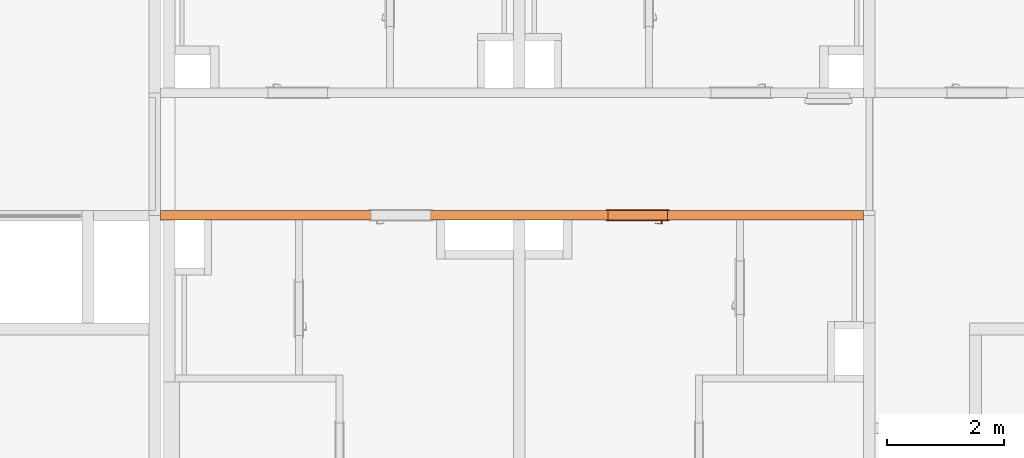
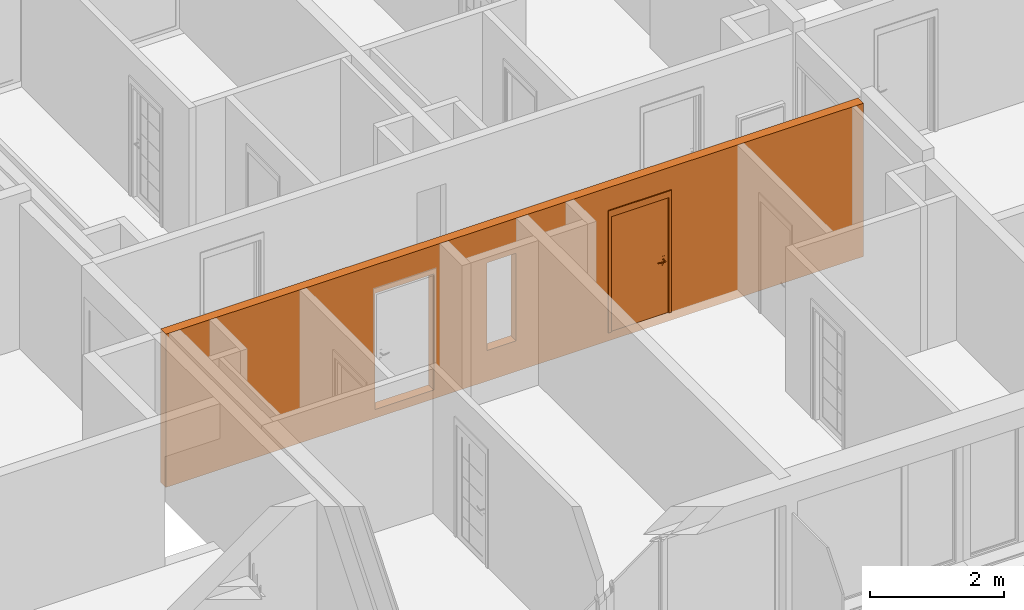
# One storey, part 17 of 61: 2 proxies, 3 openings.
"""IFC2X3 building model written with IfcOpenShell, lengths in millimetres."""

import ifcopenshell
import ifcopenshell.guid

model = None  # the IFC model being written
_history = None  # IfcOwnerHistory: only IFC2X3 demands one
_inside = {}  # id of a spatial element -> (the spatial element, [elements in it])
_under = {}  # id of a project, library or spatial element -> (it, [spatial elements below it])
_declared = {}  # id of a project -> (the project, [libraries it declares])
_typed = {}  # id of a type object -> (the type object, [elements of that type])
_made_of = {}  # id of a material, layer set ... -> (it, [elements and type objects made of it])


def new_model(schema):
    """Start an empty IFC model of exactly this schema.

    Asked for "IFC4X3", IfcOpenShell would pick the latest addendum, in which some entities
    have other attributes; the version numbers below select the first issue.
    IFC2X3 requires an IfcOwnerHistory on every rooted entity: one is made here for all.
    """
    global model, _history
    if schema == "IFC4X3":
        model = ifcopenshell.file(schema_version=(4, 3, 0, 0))
    else:
        model = ifcopenshell.file(schema=schema)
    _inside.clear()
    _under.clear()
    _declared.clear()
    _typed.clear()
    _made_of.clear()
    _history = None
    if model.schema == "IFC2X3":
        org = make("IfcOrganization", Name="unknown")
        user = make(
            "IfcPersonAndOrganization",
            ThePerson=make("IfcPerson", FamilyName="unknown"),
            TheOrganization=org,
        )
        app = make(
            "IfcApplication",
            ApplicationDeveloper=org,
            Version="unknown",
            ApplicationFullName="unknown",
            ApplicationIdentifier="unknown",
        )
        _history = make(
            "IfcOwnerHistory",
            OwningUser=user,
            OwningApplication=app,
            ChangeAction="ADDED",
            CreationDate=0,
        )
    return model


def make(cls, **values):
    """One entity of the class cls with the attributes given. An attribute that is None is left unset."""
    return model.create_entity(
        cls, **{name: value for name, value in values.items() if value is not None}
    )


def entity(cls, *values):
    """Any entity or typed value of the class cls, its attributes in the order of the schema. None: left unset."""
    e = model.create_entity(cls)
    for i, value in enumerate(values):
        if value is not None:
            e[i] = value
    return e


def rooted(cls, **values):
    """An entity with a GlobalId (a new one), such as an element, a storey or a relation."""
    return make(cls, GlobalId=ifcopenshell.guid.new(), OwnerHistory=_history, **values)


def si_unit(unit_type, name, prefix=None):
    """IfcSIUnit, for example si_unit("LENGTHUNIT", "METRE", prefix="MILLI")."""
    return make("IfcSIUnit", UnitType=unit_type, Prefix=prefix, Name=name)


def converted_unit(unit_type, name, factor, base, dimensions=None, offset=None):
    """IfcConversionBasedUnit, such as the inch: factor (a typed value) times the base unit."""
    return make(
        "IfcConversionBasedUnit"
        if offset is None
        else "IfcConversionBasedUnitWithOffset",
        ConversionOffset=offset,
        Dimensions=None
        if dimensions is None
        else entity("IfcDimensionalExponents", *dimensions),
        UnitType=unit_type,
        Name=name,
        ConversionFactor=make(
            "IfcMeasureWithUnit", ValueComponent=factor, UnitComponent=base
        ),
    )


def derived_unit(unit_type, elements):
    """IfcDerivedUnit: a product of units, each with its exponent."""
    return make(
        "IfcDerivedUnit",
        Elements=[
            make("IfcDerivedUnitElement", Unit=unit, Exponent=power)
            for unit, power in elements
        ],
        UnitType=unit_type,
    )


def money_unit(currency):
    """IfcMonetaryUnit."""
    return make("IfcMonetaryUnit", Currency=currency)


def assignment(units):
    """IfcUnitAssignment: the units of a project."""
    return None if units is None else make("IfcUnitAssignment", Units=units)


def point(xyz):
    """IfcCartesianPoint."""
    return None if xyz is None else make("IfcCartesianPoint", Coordinates=xyz)


def direction(xyz):
    """IfcDirection."""
    return None if xyz is None else make("IfcDirection", DirectionRatios=xyz)


def frame(location, z_axis=None, x_axis=None):
    """IfcAxis2Placement3D, a coordinate frame: its origin and axes. An axis left out is left unset."""
    return make(
        "IfcAxis2Placement3D",
        Location=point(location),
        Axis=direction(z_axis),
        RefDirection=direction(x_axis),
    )


def frame_2d(location, x_axis=None):
    """IfcAxis2Placement2D, a coordinate frame in the plane: its origin and x axis."""
    return make(
        "IfcAxis2Placement2D", Location=point(location), RefDirection=direction(x_axis)
    )


def origin_with_axes():
    """The frame at (0, 0, 0) with the z axis (0, 0, 1) and the x axis (1, 0, 0) written out."""
    return frame((0.0, 0.0, 0.0), z_axis=(0.0, 0.0, 1.0), x_axis=(1.0, 0.0, 0.0))


def origin_2d_with_axis():
    """The frame at (0, 0) in the plane with the x axis (1, 0) written out."""
    return frame_2d((0.0, 0.0), x_axis=(1.0, 0.0))


def place(relative_to, where):
    """IfcLocalPlacement: puts the frame where relative to a parent placement (None: the world)."""
    return make(
        "IfcLocalPlacement", PlacementRelTo=relative_to, RelativePlacement=where
    )


def context(
    kind, dimensions, precision=None, world=None, true_north=None, identifier=None
):
    """IfcGeometricRepresentationContext, for example the 3D "Model" context."""
    return make(
        "IfcGeometricRepresentationContext",
        ContextIdentifier=identifier,
        ContextType=kind,
        CoordinateSpaceDimension=dimensions,
        Precision=precision,
        WorldCoordinateSystem=world,
        TrueNorth=true_north,
    )


def subcontext(parent, identifier, kind, view, scale=None):
    """IfcGeometricRepresentationSubContext, for example "Body" below "Model"."""
    return make(
        "IfcGeometricRepresentationSubContext",
        ContextIdentifier=identifier,
        ContextType=kind,
        ParentContext=parent,
        TargetScale=scale,
        TargetView=view,
    )


def project(units=None, contexts=None):
    """IfcProject with its units and contexts."""
    return rooted(
        "IfcProject",
        Name="project",
        RepresentationContexts=contexts,
        UnitsInContext=assignment(units),
    )


def spatial(cls, under=None, at=None, **own):
    """A site, building, storey or space (cls), placed at a placement, below another one or the project."""
    s = rooted(cls, ObjectPlacement=at, **own)
    if under is not None:
        _under.setdefault(under.id(), (under, []))[1].append(s)
    return s


def profile(cls, at=None, kind="AREA", **sizes):
    """A parametric profile (cls). Its sizes go by their IFC names, for example OverallWidth=200.0."""
    return make(cls, ProfileType=kind, Position=at, **sizes)


def rectangle(**sizes):
    """IfcRectangleProfileDef."""
    return profile("IfcRectangleProfileDef", **sizes)


def extrude(swept, where, along, depth):
    """IfcExtrudedAreaSolid: the profile swept, set in the frame where, extruded along a direction by depth."""
    return make(
        "IfcExtrudedAreaSolid",
        SweptArea=swept,
        Position=where,
        ExtrudedDirection=direction(along),
        Depth=depth,
    )


def faces_of(points, faces, orient=None, outer=None):
    """IfcFace entities. A face is a list of loops; a loop is a list of indices into points, from 0.

    orient and outer hold one flag for each loop. By default every Orientation is true, the
    first loop of a face is its IfcFaceOuterBound and the others are IfcFaceBound.
    """
    made = []
    for i, loops in enumerate(faces):
        bounds = []
        for j, loop in enumerate(loops):
            is_outer = j == 0 if outer is None else outer[i][j]
            bounds.append(
                make(
                    "IfcFaceOuterBound" if is_outer else "IfcFaceBound",
                    Bound=make("IfcPolyLoop", Polygon=[points[k] for k in loop]),
                    Orientation=True if orient is None else orient[i][j],
                )
            )
        made.append(make("IfcFace", Bounds=bounds))
    return made


def open_shell(faces, orient=None, outer=None):
    """The faces of one IfcOpenShell. surface_model builds it on its shared points."""
    return ("IfcOpenShell", faces, orient, outer)


def faceted_brep(points, faces, orient=None, outer=None, voids=None):
    """IfcFacetedBrep: a solid bounded by flat faces; with voids (closed shells), ...WithVoids."""
    shared = [point(p) for p in points]
    hull = make("IfcClosedShell", CfsFaces=faces_of(shared, faces, orient, outer))
    if voids is None:
        return make("IfcFacetedBrep", Outer=hull)
    return make(
        "IfcFacetedBrepWithVoids",
        Outer=hull,
        Voids=[
            make(cls, CfsFaces=faces_of(shared, fs, o, b)) for cls, fs, o, b in voids
        ],
    )


def surface_model(cls, points, shells):
    """IfcFaceBasedSurfaceModel or IfcShellBasedSurfaceModel (cls): surfaces that need not close."""
    shared = [point(p) for p in points]
    made = [make(c, CfsFaces=faces_of(shared, fs, o, b)) for c, fs, o, b in shells]
    if cls == "IfcFaceBasedSurfaceModel":
        return make(cls, FbsmFaces=made)
    return make(cls, SbsmBoundary=made)


def shape(context_of_items, identifier, shape_type, items):
    """IfcShapeRepresentation: the items that make up one representation, for example the "Body"."""
    return make(
        "IfcShapeRepresentation",
        ContextOfItems=context_of_items,
        RepresentationIdentifier=identifier,
        RepresentationType=shape_type,
        Items=items,
    )


def source(mapping_origin, context_of_items, identifier, shape_type, items):
    """IfcRepresentationMap: a shape defined once, which mapped items show again and again."""
    return make(
        "IfcRepresentationMap",
        MappingOrigin=mapping_origin,
        MappedRepresentation=shape(context_of_items, identifier, shape_type, items),
    )


def transform(
    local_origin,
    x_axis=None,
    y_axis=None,
    z_axis=None,
    scale=None,
    scale2=None,
    scale3=None,
    uniform=True,
):
    """IfcCartesianTransformationOperator3D, or its non-uniform kind. x_axis, y_axis, z_axis: its Axis1, 2, 3."""
    if uniform:
        return make(
            "IfcCartesianTransformationOperator3D",
            Axis1=direction(x_axis),
            Axis2=direction(y_axis),
            LocalOrigin=point(local_origin),
            Scale=scale,
            Axis3=direction(z_axis),
        )
    return make(
        "IfcCartesianTransformationOperator3DnonUniform",
        Axis1=direction(x_axis),
        Axis2=direction(y_axis),
        LocalOrigin=point(local_origin),
        Scale=scale,
        Axis3=direction(z_axis),
        Scale2=scale2,
        Scale3=scale3,
    )


def mapped(mapping_source, mapping_target):
    """IfcMappedItem: shows the shape of a source again, moved by a transform."""
    return make(
        "IfcMappedItem", MappingSource=mapping_source, MappingTarget=mapping_target
    )


def material(Name=None, Category=None):
    """IfcMaterial."""
    return make("IfcMaterial", Name=Name, Category=Category)


def made_of(thing, what):
    """Note that an element or type object is made of a material, layer set ...; save() writes the relation."""
    if what is not None:
        _made_of.setdefault(what.id(), (what, []))[1].append(thing)
    return thing


def type_object(cls, material=None, **own):
    """A type object (cls), such as IfcWallType, which elements share."""
    return made_of(rooted(cls, **own), material)


def element(
    cls,
    number,
    at=None,
    inside=None,
    cuts=None,
    type_object=None,
    material=None,
    context=None,
    identifier="Body",
    shape_type=None,
    held_by="IfcProductDefinitionShape",
    body=None,
    shapes=None,
    **own,
):
    """One element of the class cls, such as IfcWall. Its Tag is "e" and its number.

    at: its placement. inside: the storey or other place that contains it. cuts: it is an
    opening in that element (IfcRelVoidsElement). A single representation is given by context,
    identifier, shape_type and body (its items); several are given by shapes. held_by: the class
    of the entity that holds the representations. save() writes the other relations.
    """
    e = rooted(cls, Tag="e%d" % number, ObjectPlacement=at, **own)
    if body is not None:
        shapes = [shape(context, identifier, shape_type, body)]
    if shapes is not None:
        e.Representation = make(held_by, Representations=shapes)
    if inside is not None:
        _inside.setdefault(inside.id(), (inside, []))[1].append(e)
    if cuts is not None:
        rooted(
            "IfcRelVoidsElement", RelatingBuildingElement=cuts, RelatedOpeningElement=e
        )
    if type_object is not None:
        _typed.setdefault(type_object.id(), (type_object, []))[1].append(e)
    return made_of(e, material)


def fill(opening, filler):
    """IfcRelFillsElement: the door or window that sits in an opening."""
    return rooted(
        "IfcRelFillsElement",
        RelatingOpeningElement=opening,
        RelatedBuildingElement=filler,
    )


def aggregate(whole, parts):
    """IfcRelAggregates: a whole, such as a stair, and the parts it consists of."""
    return rooted("IfcRelAggregates", RelatingObject=whole, RelatedObjects=parts)


def save(model, path):
    """Write the relations noted so far, then the file.

    IfcRelAggregates (storeys below a building ...), IfcRelContainedInSpatialStructure (elements
    in a storey), IfcRelDefinesByType, IfcRelAssociatesMaterial and IfcRelDeclares: one each for
    every whole, place, type object, material and project.
    """
    for whole, parts in _under.values():
        aggregate(whole, parts)
    for where, things in _inside.values():
        rooted(
            "IfcRelContainedInSpatialStructure",
            RelatedElements=things,
            RelatingStructure=where,
        )
    for kind, things in _typed.values():
        rooted("IfcRelDefinesByType", RelatedObjects=things, RelatingType=kind)
    for what, things in _made_of.values():
        rooted("IfcRelAssociatesMaterial", RelatedObjects=things, RelatingMaterial=what)
    for by, libraries in _declared.values():
        rooted("IfcRelDeclares", RelatingContext=by, RelatedDefinitions=libraries)
    model.write(path)


model = new_model("IFC2X3")

# Units and contexts
model_context = context("Model", 3, precision=0.01, world=origin_with_axes(), true_north=direction((0.34421633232, 0.938890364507)))
body_context = subcontext(model_context, "Body", "Model", "MODEL_VIEW")
ifc_project = project(units=[si_unit("LENGTHUNIT", "METRE", prefix="MILLI"), si_unit("AREAUNIT", "SQUARE_METRE"), si_unit("VOLUMEUNIT", "CUBIC_METRE"), converted_unit("PLANEANGLEUNIT", "DEGREE", entity("IfcPlaneAngleMeasure", 0.0174532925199), si_unit("PLANEANGLEUNIT", "RADIAN"), dimensions=[0, 0, 0, 0, 0, 0, 0]), si_unit("SOLIDANGLEUNIT", "STERADIAN"), money_unit("USD"), converted_unit("TIMEUNIT", "Year", entity("IfcTimeMeasure", 31556926.0), si_unit("TIMEUNIT", "SECOND"), dimensions=[0, 0, 1, 0, 0, 0, 0]), si_unit("MASSUNIT", "GRAM", prefix="KILO"), si_unit("THERMODYNAMICTEMPERATUREUNIT", "DEGREE_CELSIUS"), si_unit("LUMINOUSINTENSITYUNIT", "LUMEN"), si_unit("ENERGYUNIT", "JOULE", prefix="MEGA"), derived_unit("THERMALCONDUCTANCEUNIT", [(si_unit("POWERUNIT", "WATT"), 1), (si_unit("LENGTHUNIT", "METRE"), -1), (si_unit("THERMODYNAMICTEMPERATUREUNIT", "KELVIN"), -1)]), derived_unit("SPECIFICHEATCAPACITYUNIT", [(si_unit("ENERGYUNIT", "JOULE"), 1), (si_unit("MASSUNIT", "GRAM", prefix="KILO"), -1), (si_unit("THERMODYNAMICTEMPERATUREUNIT", "KELVIN"), -1)]), derived_unit("MASSDENSITYUNIT", [(si_unit("MASSUNIT", "GRAM", prefix="KILO"), 1), (si_unit("VOLUMEUNIT", "CUBIC_METRE"), -1)])], contexts=[model_context])

# Site, building, storey
site_placement = place(None, origin_with_axes())
site = spatial("IfcSite", under=ifc_project, at=site_placement, Name="USTRONIE MORSKIE", CompositionType="ELEMENT")
building_placement = place(site_placement, origin_with_axes())
building = spatial("IfcBuilding", under=site, at=building_placement, Name="Budynek", CompositionType="ELEMENT")
storey_placement = place(building_placement, frame((0.0, 0.0, 13000.0), z_axis=(0.0, 0.0, 1.0), x_axis=(1.0, 0.0, 0.0)))
storey = spatial("IfcBuildingStorey", under=building, at=storey_placement, Name="PIĘTRO 4", CompositionType="ELEMENT", Elevation=13000.0)

# Proxies, openings
ifc_material = material(Name="Beton konstrukcyjny B25")
building_element_proxy_type_1 = type_object("IfcBuildingElementProxyType", Name="Beton konstrukcyjny B25 160", PredefinedType="NOTDEFINED")
proxy_1_placement = place(storey_placement, frame((367067.921058, 734751.199036, -160.0), z_axis=(0.0, 0.0, 1.0), x_axis=(1.0, 0.0, 0.0)))
proxy_1 = element("IfcBuildingElementProxy", 1, at=proxy_1_placement, inside=storey, type_object=building_element_proxy_type_1, material=ifc_material, Name="SW-01", context=body_context, shape_type="Brep", body=[
    faceted_brep([(12149.9998608, 80.0, 0.0), (100.0, 80.0, 0.0), (100.0, 80.0, 2800.0), (12149.9998608, 80.0, 2800.0), (99.9999990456, -80.0, 0.0), (100.0, 0.0, 0.0), (12149.9998608, -80.0, 0.0), (100.0, 0.0, 2800.0), (99.9999990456, -80.0, 2800.0), (12149.9998608, -80.0, 2800.0)], [[[0, 1, 2, 3]], [[4, 5, 1, 0, 6]], [[5, 7, 2, 1]], [[2, 7, 8, 9, 3]], [[6, 0, 3, 9]], [[4, 8, 7, 5]], [[9, 8, 4, 6]]]),
])
opening_1_placement = place(proxy_1_placement, frame((8279.98037091, 0.0, 160.0), z_axis=(0.0, 0.0, 1.0), x_axis=(1.0, 0.0, 0.0)))
opening_1 = element("IfcOpeningElement", 2, at=opening_1_placement, cuts=proxy_1, Name="Dw.1", context=body_context, shape_type="SweptSolid", body=[
    extrude(rectangle(XDim=1020.0, YDim=2120.0, at=origin_2d_with_axis()), frame((0.0, 160.0, 1060.0), z_axis=(0.0, -1.0, 0.0), x_axis=(-1.0, 0.0, 0.0)), (0.0, 0.0, 1.0), 480.0),
    extrude(rectangle(XDim=1094.0, YDim=2227.0, at=origin_2d_with_axis()), frame((0.0, 79.9999999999, 1113.5), z_axis=(0.0, -1.0, 0.0), x_axis=(-1.0, 0.0, 0.0)), (0.0, 0.0, -1.0), 160.0),
    extrude(rectangle(XDim=1094.0, YDim=2227.0, at=origin_2d_with_axis()), frame((0.0, -80.0, 1113.5), z_axis=(0.0, 1.0, 0.0), x_axis=(-1.0, 0.0, 0.0)), (0.0, 0.0, -1.0), 160.0),
])
opening_2_placement = place(proxy_1_placement, frame((4220.01869824, 0.0, 160.0), z_axis=(0.0, 0.0, 1.0), x_axis=(1.0, 0.0, 0.0)))
element("IfcOpeningElement", 3, at=opening_2_placement, cuts=proxy_1, Name="Dw.1", context=body_context, shape_type="SweptSolid", body=[
    extrude(rectangle(XDim=1020.0, YDim=2120.0, at=origin_2d_with_axis()), frame((0.0, 160.0, 1060.0), z_axis=(0.0, 1.0, 0.0), x_axis=(1.0, 0.0, 0.0)), (0.0, 0.0, -1.0), 480.0),
    extrude(rectangle(XDim=1094.0, YDim=2227.0, at=origin_2d_with_axis()), frame((0.0, 79.9999999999, 1113.5), z_axis=(0.0, 1.0, 0.0), x_axis=(1.0, 0.0, 0.0)), (0.0, 0.0, 1.0), 160.0),
    extrude(rectangle(XDim=1094.0, YDim=2227.0, at=origin_2d_with_axis()), frame((0.0, -80.0, 1113.5), z_axis=(0.0, -1.0, 0.0), x_axis=(1.0, 0.0, 0.0)), (0.0, 0.0, 1.0), 160.0),
])
opening_3_placement = place(proxy_1_placement, frame((5899.99986077, 0.0, 560.0), z_axis=(0.0, 0.0, 1.0), x_axis=(1.0, 0.0, 0.0)))
element("IfcOpeningElement", 4, at=opening_3_placement, cuts=proxy_1, Name="R.01", context=body_context, shape_type="SweptSolid", body=[
    extrude(rectangle(XDim=500.0, YDim=1600.0, at=origin_2d_with_axis()), frame((0.0, 79.9999999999, 800.0), z_axis=(0.0, -1.0, 0.0), x_axis=(1.0, 0.0, 0.0)), (0.0, 0.0, -1.0), 160.0),
    extrude(rectangle(XDim=500.0, YDim=1600.0, at=origin_2d_with_axis()), frame((0.0, 79.9999999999, 800.0), z_axis=(0.0, 1.0, 0.0), x_axis=(1.0, 0.0, 0.0)), (0.0, 0.0, -1.0), 160.0),
])
building_element_proxy_type_2 = type_object("IfcBuildingElementProxyType", Name="Drzwi 23", PredefinedType="NOTDEFINED")
shared_shape = source(origin_with_axes(), body_context, "Body", "SurfaceModel", [
    faceted_brep([(-510.0, -115.0, 0.0), (-485.0, -115.0, 0.0), (-485.0, -160.0, 0.0), (-510.0, -160.0, 0.0), (-510.0, -115.0, 2120.0), (-485.0, -115.0, 2095.0), (-485.0, -160.0, 2095.0), (-510.0, -160.0, 2120.0)], [[[0, 1, 2, 3]], [[0, 4, 5, 1]], [[1, 5, 6, 2]], [[3, 2, 6, 7]], [[4, 0, 3, 7]], [[5, 4, 7, 6]]]),
    faceted_brep([(510.0, -115.0, 2120.0), (485.0, -115.0, 2095.0), (485.0, -160.0, 2095.0), (510.0, -160.0, 2120.0), (510.0, -115.0, 0.0), (485.0, -115.0, 0.0), (485.0, -160.0, 0.0), (510.0, -160.0, 0.0)], [[[0, 1, 2, 3]], [[0, 4, 5, 1]], [[1, 5, 6, 2]], [[3, 2, 6, 7]], [[4, 0, 3, 7]], [[5, 4, 7, 6]]]),
    faceted_brep([(-485.0, -115.0, 2095.0), (485.0, -115.0, 2095.0), (485.0, -160.0, 2095.0), (-485.0, -160.0, 2095.0), (-510.0, -115.0, 2120.0), (510.0, -115.0, 2120.0), (510.0, -160.0, 2120.0), (-510.0, -160.0, 2120.0)], [[[0, 1, 2, 3]], [[0, 4, 5, 1]], [[1, 5, 6, 2]], [[3, 2, 6, 7]], [[4, 0, 3, 7]], [[5, 4, 7, 6]]]),
    faceted_brep([(-547.0, -179.0, 0.0), (-547.0, -160.0, 0.0), (-497.0, -160.0, 0.0), (-497.0, -179.0, 0.0), (-547.0, -179.0, 2227.0), (-547.0, -160.0, 2227.0), (-497.0, -160.0, 2107.0), (-497.0, -179.0, 2107.0)], [[[0, 1, 2, 3]], [[4, 5, 1, 0]], [[1, 5, 6, 2]], [[3, 2, 6, 7]], [[0, 3, 7, 4]], [[7, 6, 5, 4]]]),
    faceted_brep([(547.0, -179.0, 2227.0), (547.0, -160.0, 2227.0), (497.0, -160.0, 2107.0), (497.0, -179.0, 2107.0), (547.0, -179.0, 0.0), (547.0, -160.0, 0.0), (497.0, -160.0, 0.0), (497.0, -179.0, 0.0)], [[[0, 1, 2, 3]], [[4, 5, 1, 0]], [[1, 5, 6, 2]], [[3, 2, 6, 7]], [[0, 3, 7, 4]], [[7, 6, 5, 4]]]),
    faceted_brep([(-547.0, -179.0, 2227.0), (-547.0, -160.0, 2227.0), (-497.0, -160.0, 2107.0), (-497.0, -179.0, 2107.0), (547.0, -179.0, 2227.0), (547.0, -160.0, 2227.0), (497.0, -160.0, 2107.0), (497.0, -179.0, 2107.0)], [[[0, 1, 2, 3]], [[4, 5, 1, 0]], [[1, 5, 6, 2]], [[3, 2, 6, 7]], [[0, 3, 7, 4]], [[7, 6, 5, 4]]]),
    faceted_brep([(-547.0, 19.0, 0.0), (-497.0, 19.0, 0.0), (-497.0, 0.0, 0.0), (-547.0, 0.0, 0.0), (-547.0, 19.0, 2227.0), (-497.0, 19.0, 2107.0), (-497.0, 0.0, 2107.0), (-547.0, 0.0, 2227.0)], [[[0, 1, 2, 3]], [[0, 4, 5, 1]], [[1, 5, 6, 2]], [[3, 2, 6, 7]], [[4, 0, 3, 7]], [[5, 4, 7, 6]]]),
    faceted_brep([(547.0, 19.0, 2227.0), (497.0, 19.0, 2107.0), (497.0, 0.0, 2107.0), (547.0, 0.0, 2227.0), (547.0, 19.0, 0.0), (497.0, 19.0, 0.0), (497.0, 0.0, 0.0), (547.0, 0.0, 0.0)], [[[0, 1, 2, 3]], [[0, 4, 5, 1]], [[1, 5, 6, 2]], [[3, 2, 6, 7]], [[4, 0, 3, 7]], [[5, 4, 7, 6]]]),
    faceted_brep([(-547.0, 19.0, 2227.0), (-497.0, 19.0, 2107.0), (-497.0, 0.0, 2107.0), (-547.0, 0.0, 2227.0), (547.0, 19.0, 2227.0), (497.0, 19.0, 2107.0), (497.0, 0.0, 2107.0), (547.0, 0.0, 2227.0)], [[[0, 1, 2, 3]], [[0, 4, 5, 1]], [[1, 5, 6, 2]], [[3, 2, 6, 7]], [[4, 0, 3, 7]], [[5, 4, 7, 6]]]),
    faceted_brep([(-450.0, -40.0, 0.0), (-450.0, -40.0, 2050.0), (-450.0, -115.0, 2050.0), (-450.0, -115.0, 0.0), (-462.0, -40.0, 2050.0), (-462.0, -40.0, 0.0), (-462.0, 0.0, 2050.0), (-510.0, 0.0, 2050.0), (-510.0, -115.0, 2050.0), (-510.0, -115.0, 0.0), (-510.0, 0.0, 0.0), (-462.0, 0.0, 0.0)], [[[0, 1, 2, 3]], [[4, 1, 0, 5]], [[4, 6, 7, 8, 2, 1]], [[3, 2, 8, 9]], [[5, 0, 3, 9, 10, 11]], [[6, 4, 5, 11]], [[6, 11, 10, 7]], [[10, 9, 8, 7]]]),
    faceted_brep([(462.0, -40.0, 2050.0), (450.0, -40.0, 2050.0), (450.0, -115.0, 2050.0), (510.0, -115.0, 2050.0), (510.0, 0.0, 2050.0), (462.0, 0.0, 2050.0), (462.0, -40.0, 0.0), (450.0, -40.0, 0.0), (450.0, -115.0, 0.0), (510.0, -115.0, 0.0), (510.0, 0.0, 0.0), (462.0, 0.0, 0.0)], [[[0, 1, 2, 3, 4, 5]], [[1, 0, 6, 7]], [[1, 7, 8, 2]], [[3, 2, 8, 9]], [[4, 3, 9, 10]], [[11, 5, 4, 10]], [[0, 5, 11, 6]], [[6, 11, 10, 9, 8, 7]]]),
    faceted_brep([(-462.0, 0.0, 2062.0), (-462.0, 0.0, 2050.0), (-510.0, 0.0, 2050.0), (-510.0, 0.0, 2120.0), (510.0, 0.0, 2120.0), (510.0, 0.0, 2050.0), (462.0, 0.0, 2050.0), (462.0, 0.0, 2062.0), (-462.0, -40.0, 2062.0), (-462.0, -40.0, 2050.0), (-450.0, -40.0, 2050.0), (-450.0, -115.0, 2050.0), (-510.0, -115.0, 2050.0), (-510.0, -115.0, 2120.0), (510.0, -115.0, 2120.0), (510.0, -115.0, 2050.0), (462.0, -40.0, 2050.0), (450.0, -115.0, 2050.0), (450.0, -40.0, 2050.0), (462.0, -40.0, 2062.0)], [[[0, 1, 2, 3, 4, 5, 6, 7]], [[1, 0, 8, 9]], [[9, 10, 11, 12, 2, 1]], [[2, 12, 13, 3]], [[3, 13, 14, 4]], [[4, 14, 15, 5]], [[16, 6, 5, 15, 17, 18]], [[7, 6, 16, 19]], [[0, 7, 19, 8]], [[16, 18, 10, 9, 8, 19]], [[10, 18, 17, 11]], [[17, 15, 14, 13, 12, 11]]]),
    faceted_brep([(-440.5, -40.0, 1060.0), (-440.5, -43.0, 1060.0), (-383.5, -43.0, 1060.0), (-383.5, -40.0, 1060.0), (-440.5, -40.0, 870.0), (-440.5, -43.0, 870.0), (-383.5, -43.0, 870.0), (-383.5, -40.0, 870.0)], [[[0, 1, 2, 3]], [[4, 5, 1, 0]], [[1, 5, 6, 2]], [[3, 2, 6, 7]], [[0, 3, 7, 4]], [[7, 6, 5, 4]]]),
    faceted_brep([(-412.0, -104.0, 990.0), (-412.0, -111.0, 990.0), (-417.0, -111.0, 991.339745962), (-417.0, -104.0, 991.339745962), (-387.0, -104.0, 990.0), (-387.0, -111.0, 990.0), (-387.0, -111.0, 1010.0), (-412.0, -111.0, 1010.0), (-417.0, -111.0, 1008.66025404), (-420.660254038, -111.0, 1005.0), (-422.0, -111.0, 1000.0), (-420.660254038, -111.0, 995.0), (-420.660254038, -104.0, 995.0), (-422.0, -104.0, 1000.0), (-420.660254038, -104.0, 1005.0), (-417.0, -104.0, 1008.66025404), (-412.0, -104.0, 1010.0), (-387.0, -104.0, 1010.0)], [[[0, 1, 2, 3]], [[4, 5, 1, 0]], [[1, 5, 6, 7, 8, 9, 10, 11, 2]], [[3, 2, 11, 12]], [[0, 3, 12, 13, 14, 15, 16, 17, 4]], [[17, 6, 5, 4]], [[16, 7, 6, 17]], [[15, 8, 7, 16]], [[14, 9, 8, 15]], [[13, 10, 9, 14]], [[12, 11, 10, 13]]]),
    surface_model("IfcShellBasedSurfaceModel", [(-387.0, -104.0, 1010.0), (-373.596090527, -111.0, 1009.60730092), (-373.901717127, -104.0, 1009.60730092), (-387.0, -111.0, 1010.0), (-346.890283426, -108.663544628, 1008.82190275), (-373.901717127, -104.0, 990.392699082), (-387.0, -104.0, 990.0), (-387.0, -111.0, 990.0), (-373.596090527, -111.0, 990.392699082), (-346.890283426, -108.663544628, 991.178097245), (-347.804837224, -101.716818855, 1008.82190275), (-347.804837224, -101.716818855, 991.178097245), (-320.489735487, -104.008415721, 991.963495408), (-320.489735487, -104.008415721, 1008.03650459), (-322.006256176, -97.1678329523, 1008.03650459), (-322.006256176, -97.1678329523, 991.963495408), (-294.59537082, -97.0700416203, 992.748893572), (-294.59537082, -97.0700416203, 1007.25110643), (-296.702316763, -90.3876628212, 1007.25110643), (-296.702316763, -90.3876628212, 992.748893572), (-286.538795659, -94.1376880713, 993.0), (-286.538795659, -94.1376880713, 1007.0), (-288.829442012, -87.5221707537, 1007.0), (-288.829442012, -87.5221707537, 993.0)], [open_shell([[[0, 1, 2]], [[0, 3, 1]], [[2, 1, 4]], [[0, 2, 5, 6]], [[3, 7, 8, 1]], [[1, 8, 9, 4]], [[2, 4, 10]], [[2, 10, 11, 5]], [[5, 7, 6]], [[5, 8, 7]], [[11, 9, 8]], [[4, 9, 12, 13]], [[10, 4, 13]], [[10, 14, 15, 11]], [[11, 8, 5]], [[15, 9, 11]], [[15, 12, 9]], [[13, 12, 16, 17]], [[10, 13, 14]], [[14, 18, 19, 15]], [[19, 12, 15]], [[19, 16, 12]], [[17, 16, 20, 21]], [[14, 13, 17]], [[14, 17, 18]], [[18, 22, 23, 19]], [[23, 16, 19]], [[23, 20, 16]], [[22, 21, 20, 23]], [[18, 17, 21]], [[18, 21, 22]]])]),
    faceted_brep([(-401.607695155, -53.0, 994.0), (-400.741669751, -43.0, 993.5), (-399.0, -43.0, 1000.0), (-400.0, -53.0, 1000.0), (-406.0, -53.0, 989.607695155), (-405.5, -43.0, 988.741669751), (-412.0, -43.0, 987.0), (-418.5, -43.0, 988.741669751), (-423.258330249, -43.0, 993.5), (-425.0, -43.0, 1000.0), (-423.258330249, -43.0, 1006.5), (-418.5, -43.0, 1011.25833025), (-412.0, -43.0, 1013.0), (-405.5, -43.0, 1011.25833025), (-400.741669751, -43.0, 1006.5), (-401.607695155, -53.0, 1006.0), (-406.0, -53.0, 1010.39230485), (-412.0, -53.0, 1012.0), (-418.0, -53.0, 1010.39230485), (-422.392304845, -53.0, 1006.0), (-424.0, -53.0, 1000.0), (-422.392304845, -53.0, 994.0), (-418.0, -53.0, 989.607695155), (-412.0, -53.0, 988.0)], [[[0, 1, 2, 3]], [[4, 5, 1, 0]], [[2, 1, 5, 6, 7, 8, 9, 10, 11, 12, 13, 14]], [[3, 2, 14, 15]], [[3, 15, 16, 17, 18, 19, 20, 21, 22, 23, 4, 0]], [[23, 6, 5, 4]], [[22, 7, 6, 23]], [[21, 8, 7, 22]], [[20, 9, 8, 21]], [[19, 10, 9, 20]], [[18, 11, 10, 19]], [[17, 12, 11, 18]], [[16, 13, 12, 17]], [[15, 14, 13, 16]]]),
    faceted_brep([(-394.679491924, -47.0, 895.0), (-392.947441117, -43.0, 894.0), (-390.0, -43.0, 905.0), (-392.0, -47.0, 905.0), (-402.0, -47.0, 887.679491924), (-401.0, -43.0, 885.947441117), (-412.0, -43.0, 883.0), (-423.0, -43.0, 885.947441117), (-431.052558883, -43.0, 894.0), (-434.0, -43.0, 905.0), (-431.052558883, -43.0, 916.0), (-423.0, -43.0, 924.052558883), (-412.0, -43.0, 927.0), (-401.0, -43.0, 924.052558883), (-392.947441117, -43.0, 916.0), (-394.679491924, -47.0, 915.0), (-402.0, -47.0, 922.320508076), (-412.0, -47.0, 925.0), (-422.0, -47.0, 922.320508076), (-429.320508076, -47.0, 915.0), (-432.0, -47.0, 905.0), (-429.320508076, -47.0, 895.0), (-422.0, -47.0, 887.679491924), (-412.0, -47.0, 885.0)], [[[0, 1, 2, 3]], [[4, 5, 1, 0]], [[2, 1, 5, 6, 7, 8, 9, 10, 11, 12, 13, 14]], [[3, 2, 14, 15]], [[3, 15, 16, 17, 18, 19, 20, 21, 22, 23, 4, 0]], [[23, 6, 5, 4]], [[22, 7, 6, 23]], [[21, 8, 7, 22]], [[20, 9, 8, 21]], [[19, 10, 9, 20]], [[18, 11, 10, 19]], [[17, 12, 11, 18]], [[16, 13, 12, 17]], [[15, 14, 13, 16]]]),
    faceted_brep([(-407.050252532, -49.0, 909.050252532), (-406.343145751, -47.0, 908.343145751), (-404.0, -47.0, 914.0), (-405.0, -49.0, 914.0), (-412.0, -49.0, 907.0), (-412.0, -47.0, 906.0), (-417.656854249, -47.0, 908.343145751), (-420.0, -47.0, 914.0), (-417.656854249, -47.0, 919.656854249), (-412.0, -47.0, 922.0), (-406.343145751, -47.0, 919.656854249), (-407.050252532, -49.0, 918.949747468), (-412.0, -49.0, 921.0), (-416.949747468, -49.0, 918.949747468), (-419.0, -49.0, 914.0), (-416.949747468, -49.0, 909.050252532)], [[[0, 1, 2, 3]], [[4, 5, 1, 0]], [[2, 1, 5, 6, 7, 8, 9, 10]], [[3, 2, 10, 11]], [[3, 11, 12, 13, 14, 15, 4, 0]], [[15, 6, 5, 4]], [[14, 7, 6, 15]], [[13, 8, 7, 14]], [[12, 9, 8, 13]], [[11, 10, 9, 12]]]),
    faceted_brep([(-412.0, -53.0, 1010.0), (-412.0, -104.0, 1010.0), (-407.0, -104.0, 1008.66025404), (-407.0, -53.0, 1008.66025404), (-417.0, -53.0, 1008.66025404), (-417.0, -104.0, 1008.66025404), (-420.660254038, -104.0, 1005.0), (-422.0, -104.0, 1000.0), (-420.660254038, -104.0, 995.0), (-417.0, -104.0, 991.339745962), (-412.0, -104.0, 990.0), (-407.0, -104.0, 991.339745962), (-403.339745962, -104.0, 995.0), (-402.0, -104.0, 1000.0), (-403.339745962, -104.0, 1005.0), (-403.339745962, -53.0, 1005.0), (-402.0, -53.0, 1000.0), (-403.339745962, -53.0, 995.0), (-407.0, -53.0, 991.339745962), (-412.0, -53.0, 990.0), (-417.0, -53.0, 991.339745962), (-420.660254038, -53.0, 995.0), (-422.0, -53.0, 1000.0), (-420.660254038, -53.0, 1005.0)], [[[0, 1, 2, 3]], [[4, 5, 1, 0]], [[1, 5, 6, 7, 8, 9, 10, 11, 12, 13, 14, 2]], [[3, 2, 14, 15]], [[0, 3, 15, 16, 17, 18, 19, 20, 21, 22, 23, 4]], [[23, 6, 5, 4]], [[22, 7, 6, 23]], [[21, 8, 7, 22]], [[20, 9, 8, 21]], [[19, 10, 9, 20]], [[18, 11, 10, 19]], [[17, 12, 11, 18]], [[16, 13, 12, 17]], [[15, 14, 13, 16]]]),
    faceted_brep([(-440.5, 0.0, 1060.0), (-383.5, 0.0, 1060.0), (-383.5, 3.0, 1060.0), (-440.5, 3.0, 1060.0), (-440.5, 0.0, 870.0), (-383.5, 0.0, 870.0), (-383.5, 3.0, 870.0), (-440.5, 3.0, 870.0)], [[[0, 1, 2, 3]], [[0, 4, 5, 1]], [[1, 5, 6, 2]], [[3, 2, 6, 7]], [[4, 0, 3, 7]], [[5, 4, 7, 6]]]),
    faceted_brep([(-412.0, 64.0, 990.0), (-417.0, 64.0, 991.339745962), (-417.0, 71.0, 991.339745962), (-412.0, 71.0, 990.0), (-387.0, 64.0, 990.0), (-387.0, 64.0, 1010.0), (-412.0, 64.0, 1010.0), (-417.0, 64.0, 1008.66025404), (-420.660254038, 64.0, 1005.0), (-422.0, 64.0, 1000.0), (-420.660254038, 64.0, 995.0), (-420.660254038, 71.0, 995.0), (-422.0, 71.0, 1000.0), (-420.660254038, 71.0, 1005.0), (-417.0, 71.0, 1008.66025404), (-412.0, 71.0, 1010.0), (-387.0, 71.0, 1010.0), (-387.0, 71.0, 990.0)], [[[0, 1, 2, 3]], [[0, 4, 5, 6, 7, 8, 9, 10, 1]], [[1, 10, 11, 2]], [[3, 2, 11, 12, 13, 14, 15, 16, 17]], [[4, 0, 3, 17]], [[5, 4, 17, 16]], [[6, 5, 16, 15]], [[7, 6, 15, 14]], [[8, 7, 14, 13]], [[9, 8, 13, 12]], [[10, 9, 12, 11]]]),
    surface_model("IfcShellBasedSurfaceModel", [(-387.0, 64.0, 1010.0), (-373.901717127, 64.0, 1009.60730092), (-373.596090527, 71.0, 1009.60730092), (-387.0, 64.0, 990.0), (-373.901717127, 64.0, 990.392699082), (-346.890283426, 68.6635446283, 1008.82190275), (-387.0, 71.0, 1010.0), (-387.0, 71.0, 990.0), (-347.804837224, 61.716818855, 991.178097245), (-347.804837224, 61.716818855, 1008.82190275), (-346.890283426, 68.6635446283, 991.178097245), (-373.596090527, 71.0, 990.392699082), (-322.006256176, 57.1678329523, 991.963495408), (-322.006256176, 57.1678329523, 1008.03650459), (-320.489735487, 64.0084157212, 1008.03650459), (-320.489735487, 64.0084157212, 991.963495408), (-296.702316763, 50.3876628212, 992.748893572), (-296.702316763, 50.3876628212, 1007.25110643), (-294.59537082, 57.0700416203, 1007.25110643), (-294.59537082, 57.0700416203, 992.748893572), (-288.829442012, 47.5221707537, 993.0), (-288.829442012, 47.5221707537, 1007.0), (-286.538795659, 54.1376880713, 1007.0), (-286.538795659, 54.1376880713, 993.0)], [open_shell([[[0, 1, 2]], [[0, 3, 4, 1]], [[1, 5, 2]], [[0, 2, 6]], [[4, 3, 7]], [[1, 4, 8, 9]], [[1, 9, 5]], [[2, 5, 10, 11]], [[6, 2, 11, 7]], [[4, 7, 11]], [[8, 4, 11]], [[9, 8, 12, 13]], [[9, 14, 5]], [[5, 14, 15, 10]], [[8, 11, 10]], [[12, 8, 10]], [[13, 12, 16, 17]], [[9, 13, 14]], [[14, 18, 19, 15]], [[12, 10, 15]], [[16, 12, 15]], [[17, 16, 20, 21]], [[13, 17, 18]], [[13, 18, 14]], [[18, 22, 23, 19]], [[16, 15, 19]], [[20, 16, 19]], [[21, 20, 23, 22]], [[17, 21, 22]], [[17, 22, 18]], [[20, 19, 23]]])]),
    faceted_brep([(-401.607695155, 13.0, 994.0), (-400.0, 13.0, 1000.0), (-399.0, 3.0, 1000.0), (-400.741669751, 3.0, 993.5), (-406.0, 13.0, 989.607695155), (-412.0, 13.0, 988.0), (-418.0, 13.0, 989.607695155), (-422.392304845, 13.0, 994.0), (-424.0, 13.0, 1000.0), (-422.392304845, 13.0, 1006.0), (-418.0, 13.0, 1010.39230485), (-412.0, 13.0, 1012.0), (-406.0, 13.0, 1010.39230485), (-401.607695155, 13.0, 1006.0), (-400.741669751, 3.0, 1006.5), (-405.5, 3.0, 1011.25833025), (-412.0, 3.0, 1013.0), (-418.5, 3.0, 1011.25833025), (-423.258330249, 3.0, 1006.5), (-425.0, 3.0, 1000.0), (-423.258330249, 3.0, 993.5), (-418.5, 3.0, 988.741669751), (-412.0, 3.0, 987.0), (-405.5, 3.0, 988.741669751)], [[[0, 1, 2, 3]], [[1, 0, 4, 5, 6, 7, 8, 9, 10, 11, 12, 13]], [[1, 13, 14, 2]], [[2, 14, 15, 16, 17, 18, 19, 20, 21, 22, 23, 3]], [[4, 0, 3, 23]], [[5, 4, 23, 22]], [[6, 5, 22, 21]], [[7, 6, 21, 20]], [[8, 7, 20, 19]], [[9, 8, 19, 18]], [[10, 9, 18, 17]], [[11, 10, 17, 16]], [[12, 11, 16, 15]], [[13, 12, 15, 14]]]),
    faceted_brep([(-394.679491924, 7.0, 895.0), (-392.0, 7.0, 905.0), (-390.0, 3.0, 905.0), (-392.947441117, 3.0, 894.0), (-402.0, 7.0, 887.679491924), (-412.0, 7.0, 885.0), (-422.0, 7.0, 887.679491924), (-429.320508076, 7.0, 895.0), (-432.0, 7.0, 905.0), (-429.320508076, 7.0, 915.0), (-422.0, 7.0, 922.320508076), (-412.0, 7.0, 925.0), (-402.0, 7.0, 922.320508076), (-394.679491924, 7.0, 915.0), (-392.947441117, 3.0, 916.0), (-401.0, 3.0, 924.052558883), (-412.0, 3.0, 927.0), (-423.0, 3.0, 924.052558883), (-431.052558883, 3.0, 916.0), (-434.0, 3.0, 905.0), (-431.052558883, 3.0, 894.0), (-423.0, 3.0, 885.947441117), (-412.0, 3.0, 883.0), (-401.0, 3.0, 885.947441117)], [[[0, 1, 2, 3]], [[1, 0, 4, 5, 6, 7, 8, 9, 10, 11, 12, 13]], [[1, 13, 14, 2]], [[2, 14, 15, 16, 17, 18, 19, 20, 21, 22, 23, 3]], [[4, 0, 3, 23]], [[5, 4, 23, 22]], [[6, 5, 22, 21]], [[7, 6, 21, 20]], [[8, 7, 20, 19]], [[9, 8, 19, 18]], [[10, 9, 18, 17]], [[11, 10, 17, 16]], [[12, 11, 16, 15]], [[13, 12, 15, 14]]]),
    faceted_brep([(-407.050252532, 9.0, 909.050252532), (-405.0, 9.0, 914.0), (-404.0, 7.0, 914.0), (-406.343145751, 7.0, 908.343145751), (-412.0, 9.0, 907.0), (-416.949747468, 9.0, 909.050252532), (-419.0, 9.0, 914.0), (-416.949747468, 9.0, 918.949747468), (-412.0, 9.0, 921.0), (-407.050252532, 9.0, 918.949747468), (-406.343145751, 7.0, 919.656854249), (-412.0, 7.0, 922.0), (-417.656854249, 7.0, 919.656854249), (-420.0, 7.0, 914.0), (-417.656854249, 7.0, 908.343145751), (-412.0, 7.0, 906.0)], [[[0, 1, 2, 3]], [[1, 0, 4, 5, 6, 7, 8, 9]], [[1, 9, 10, 2]], [[2, 10, 11, 12, 13, 14, 15, 3]], [[4, 0, 3, 15]], [[5, 4, 15, 14]], [[6, 5, 14, 13]], [[7, 6, 13, 12]], [[8, 7, 12, 11]], [[9, 8, 11, 10]]]),
    faceted_brep([(-412.0, 13.0, 1010.0), (-407.0, 13.0, 1008.66025404), (-407.0, 64.0, 1008.66025404), (-412.0, 64.0, 1010.0), (-417.0, 13.0, 1008.66025404), (-420.660254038, 13.0, 1005.0), (-422.0, 13.0, 1000.0), (-420.660254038, 13.0, 995.0), (-417.0, 13.0, 991.339745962), (-412.0, 13.0, 990.0), (-407.0, 13.0, 991.339745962), (-403.339745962, 13.0, 995.0), (-402.0, 13.0, 1000.0), (-403.339745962, 13.0, 1005.0), (-403.339745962, 64.0, 1005.0), (-402.0, 64.0, 1000.0), (-403.339745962, 64.0, 995.0), (-407.0, 64.0, 991.339745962), (-412.0, 64.0, 990.0), (-417.0, 64.0, 991.339745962), (-420.660254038, 64.0, 995.0), (-422.0, 64.0, 1000.0), (-420.660254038, 64.0, 1005.0), (-417.0, 64.0, 1008.66025404)], [[[0, 1, 2, 3]], [[0, 4, 5, 6, 7, 8, 9, 10, 11, 12, 13, 1]], [[1, 13, 14, 2]], [[3, 2, 14, 15, 16, 17, 18, 19, 20, 21, 22, 23]], [[4, 0, 3, 23]], [[5, 4, 23, 22]], [[6, 5, 22, 21]], [[7, 6, 21, 20]], [[8, 7, 20, 19]], [[9, 8, 19, 18]], [[10, 9, 18, 17]], [[11, 10, 17, 16]], [[12, 11, 16, 15]], [[13, 12, 15, 14]]]),
    faceted_brep([(462.0, 0.0, 0.0), (462.0, -40.0, 0.0), (-462.0, -40.0, 0.0), (-462.0, 0.0, 0.0), (462.0, 0.0, 2062.0), (462.0, -40.0, 2062.0), (-462.0, -40.0, 2062.0), (-462.0, 0.0, 2062.0)], [[[0, 1, 2, 3]], [[4, 5, 1, 0]], [[1, 5, 6, 2]], [[3, 2, 6, 7]], [[0, 3, 7, 4]], [[7, 6, 5, 4]]]),
])
proxy_2_placement = place(opening_1_placement, frame((450.0, 0.0, 0.0), z_axis=(0.0, 0.0, 1.0), x_axis=(-1.0, 0.0, 0.0)))
proxy_2 = element("IfcBuildingElementProxy", 5, at=proxy_2_placement, inside=storey, type_object=building_element_proxy_type_2, Name="Dw.1", context=body_context, shape_type="MappedRepresentation", body=[
    mapped(shared_shape, transform((450.0, 80.0, 0.0))),
])
fill(opening_1, proxy_2)

save(model, "model.ifc")
